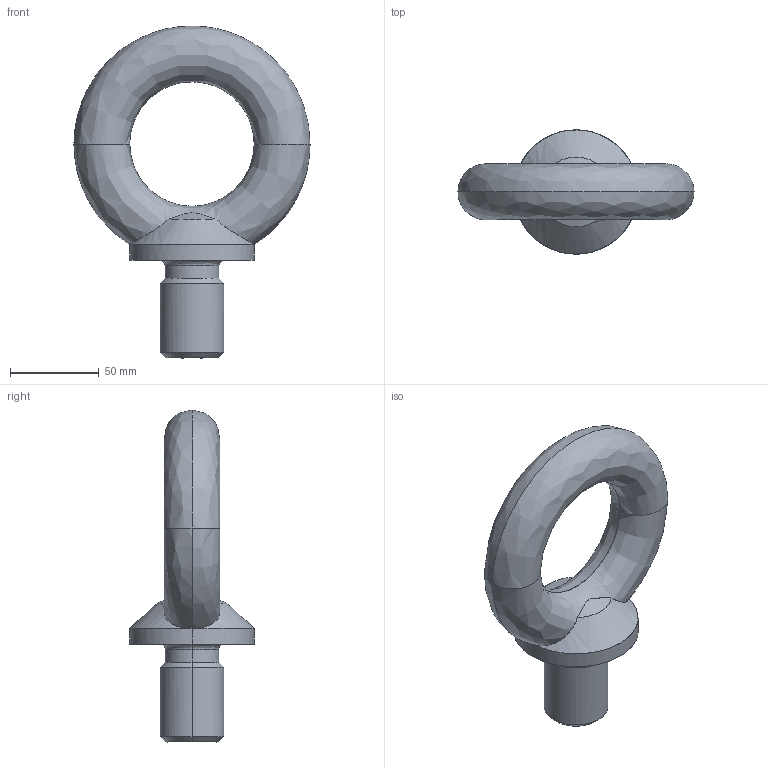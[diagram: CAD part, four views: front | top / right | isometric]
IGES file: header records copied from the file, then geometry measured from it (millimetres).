
Global section: file name: E:\UnigraphicsGraphicData\MISUMI_PRESS-PARTS\IGES\3d_chi36_03527_r00.igs; native system: NX V5.0; preprocessor: UGS NX IGES V5.0; author: MISUMI; date: 20110105.160219; units: millimetre
Bounding box: 133 x 70 x 186.99 mm (x, y, z)
Surface area: 42549 mm2 (no closed solid volume)
Topology: 0 solids, 0 shells, 22 faces, 156 edges, 156 vertices
Faces by surface type: bspline 22
